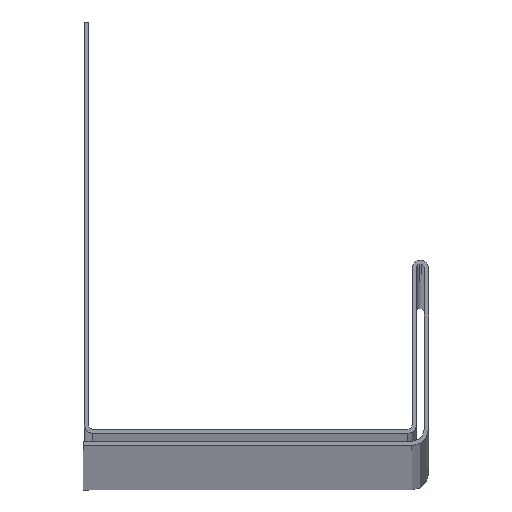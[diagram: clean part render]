
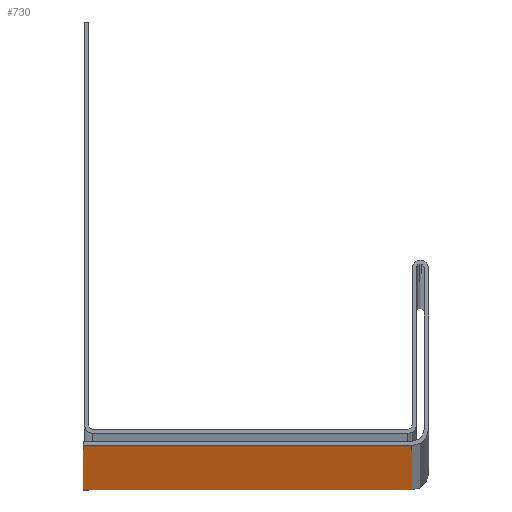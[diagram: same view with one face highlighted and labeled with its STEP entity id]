
A CAD part, top view. The second image highlights one B-rep face of the part: STEP entity #730.
In plain terms, the highlighted planar face has unit normal (0, -1, 0).
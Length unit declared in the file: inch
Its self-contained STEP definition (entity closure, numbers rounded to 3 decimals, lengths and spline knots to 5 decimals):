
#9 = EDGE_CURVE ( 'NONE', #85, #847, #706, .T. ) ;
#13 = CARTESIAN_POINT ( 'NONE',  ( 1.545, -0.05819, 120. ) ) ;
#23 = LINE ( 'NONE', #801, #422 ) ;
#85 = VERTEX_POINT ( 'NONE', #345 ) ;
#103 = CARTESIAN_POINT ( 'NONE',  ( 1.545, -0.05819, 0. ) ) ;
#110 = VERTEX_POINT ( 'NONE', #103 ) ;
#111 = EDGE_CURVE ( 'NONE', #512, #85, #23, .T. ) ;
#114 = ORIENTED_EDGE ( 'NONE', *, *, #9, .T. ) ;
#119 = CARTESIAN_POINT ( 'NONE',  ( 1.545, -0.05819, 120. ) ) ;
#229 = EDGE_CURVE ( 'NONE', #110, #847, #744, .T. ) ;
#231 = ORIENTED_EDGE ( 'NONE', *, *, #111, .T. ) ;
#256 = CARTESIAN_POINT ( 'NONE',  ( 1.545, -0.05819, 120. ) ) ;
#258 = DIRECTION ( 'NONE',  ( -1., 0., 0. ) ) ;
#267 = CARTESIAN_POINT ( 'NONE',  ( -0.00518, -0.05819, 120. ) ) ;
#279 = DIRECTION ( 'NONE',  ( 0., -1., 0. ) ) ;
#313 = FACE_OUTER_BOUND ( 'NONE', #379, .T. ) ;
#345 = CARTESIAN_POINT ( 'NONE',  ( -0.00518, -0.05819, 120. ) ) ;
#379 = EDGE_LOOP ( 'NONE', ( #469, #552, #231, #114 ) ) ;
#418 = CARTESIAN_POINT ( 'NONE',  ( 1.545, -0.05819, 0. ) ) ;
#422 = VECTOR ( 'NONE', #584, 39.37008 ) ;
#469 = ORIENTED_EDGE ( 'NONE', *, *, #229, .F. ) ;
#499 = VECTOR ( 'NONE', #741, 39.37008 ) ;
#512 = VERTEX_POINT ( 'NONE', #13 ) ;
#543 = VECTOR ( 'NONE', #258, 39.37008 ) ;
#552 = ORIENTED_EDGE ( 'NONE', *, *, #626, .F. ) ;
#582 = VECTOR ( 'NONE', #865, 39.37008 ) ;
#584 = DIRECTION ( 'NONE',  ( -1., 0., 0. ) ) ;
#626 = EDGE_CURVE ( 'NONE', #512, #110, #976, .T. ) ;
#706 = LINE ( 'NONE', #267, #499 ) ;
#730 = ADVANCED_FACE ( 'NONE', ( #313 ), #887, .T. ) ;
#741 = DIRECTION ( 'NONE',  ( 0., 0., -1. ) ) ;
#744 = LINE ( 'NONE', #418, #543 ) ;
#801 = CARTESIAN_POINT ( 'NONE',  ( 1.545, -0.05819, 120. ) ) ;
#814 = AXIS2_PLACEMENT_3D ( 'NONE', #119, #279, #978 ) ;
#834 = CARTESIAN_POINT ( 'NONE',  ( -0.00518, -0.05819, 0. ) ) ;
#847 = VERTEX_POINT ( 'NONE', #834 ) ;
#865 = DIRECTION ( 'NONE',  ( 0., 0., -1. ) ) ;
#887 = PLANE ( 'NONE',  #814 ) ;
#976 = LINE ( 'NONE', #256, #582 ) ;
#978 = DIRECTION ( 'NONE',  ( 1., 0., 0. ) ) ;
